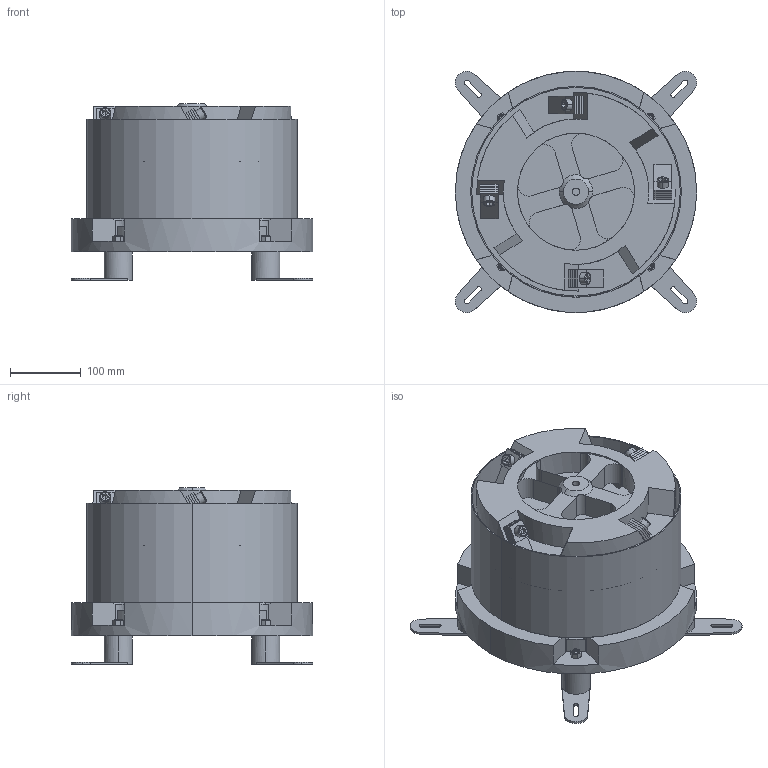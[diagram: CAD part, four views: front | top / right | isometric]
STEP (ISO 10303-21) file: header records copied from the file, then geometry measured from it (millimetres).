
FILE_DESCRIPTION(/* description */ (''),/* implementation_level */ '2;1');
FILE_NAME(/* name */ 'DA300 铁盖.stp',/* time_stamp */ '2025-07-17T20:03:57+08:00',/* author */ (''),/* organization */ (''),/* preprocessor_version */ 'ST-DEVELOPER v18.102',/* originating_system */ 'SIEMENS PLM Software NX2206.1700',/* authorisation */ '');
FILE_SCHEMA (('AP203_CONFIGURATION_CONTROLLED_3D_DESIGN_OF_MECHANICAL_PARTS_AND_ASSEMBLIES_MIM_LF { 1 0 10303 403 2 1 2}'));
Length unit declared in the file: millimetre
Products named in the file (1): DA300 铁盖_2023_step_objects
Bounding box: 340.25 x 340.22 x 249 mm (x, y, z)
Volume: 11264352.3 mm3; surface area: 840417 mm2
Topology: 27 solids, 31 shells, 525 faces, 1261 edges, 807 vertices
Faces by surface type: plane 295, cylinder 154, cone 61, torus 15
Entity records: 15651 total; most frequent: CARTESIAN_POINT 2879, DIRECTION 2681, ORIENTED_EDGE 2506, EDGE_CURVE 1253, AXIS2_PLACEMENT_3D 989, VERTEX_POINT 807, LINE 703, VECTOR 703
